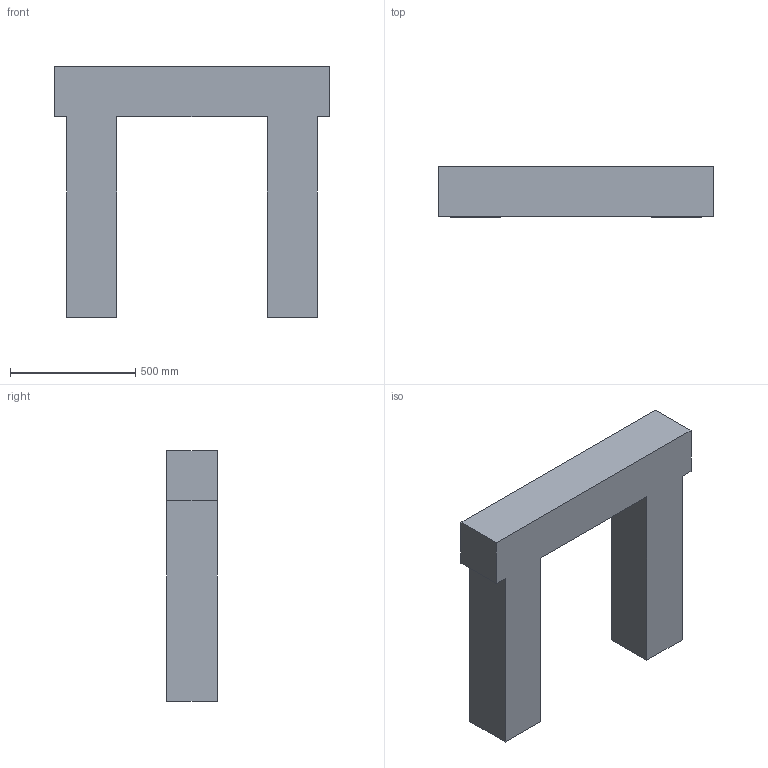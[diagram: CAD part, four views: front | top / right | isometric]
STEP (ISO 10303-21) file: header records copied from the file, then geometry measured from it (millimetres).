
FILE_DESCRIPTION(('Open CASCADE Model'),'2;1');
FILE_NAME('Open CASCADE Shape Model','2020-09-09T14:16:36',('Author'),( 'Open CASCADE'),'Open CASCADE STEP processor 7.1','Open CASCADE 7.1' ,'Unknown');
FILE_SCHEMA(('AUTOMOTIVE_DESIGN { 1 0 10303 214 1 1 1 1 }'));
Length unit declared in the file: millimetre
Products named in the file (1): Open CASCADE STEP translator 7.1 1
Bounding box: 1100 x 200 x 1000 mm (x, y, z)
Volume: 108000000 mm3; surface area: 2240000 mm2
Topology: 1 solids, 1 shells, 14 faces, 36 edges, 24 vertices
Faces by surface type: plane 14
Entity records: 898 total; most frequent: CARTESIAN_POINT 147, DIRECTION 138, LINE 108, VECTOR 108, ORIENTED_EDGE 72, PCURVE 72, DEFINITIONAL_REPRESENTATION 72, EDGE_CURVE 36
